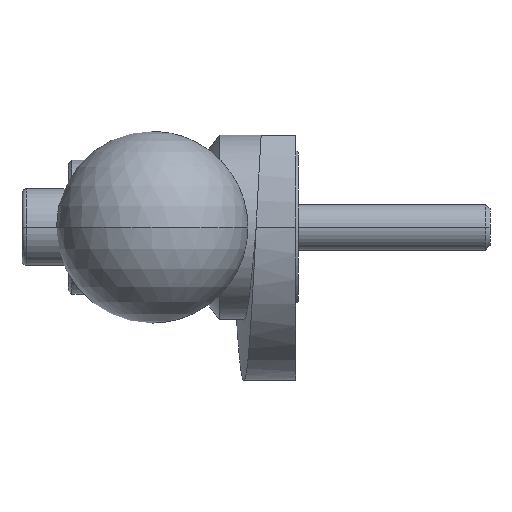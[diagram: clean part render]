
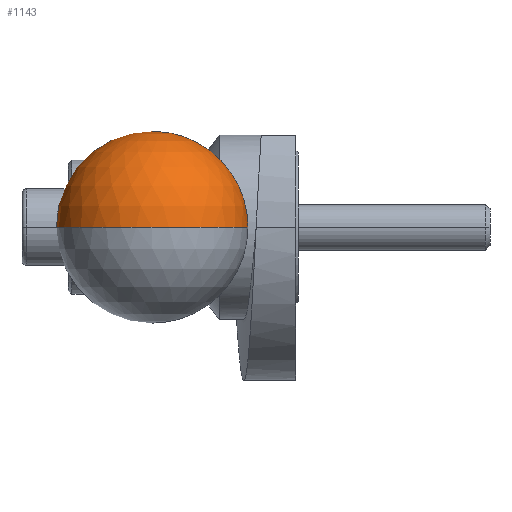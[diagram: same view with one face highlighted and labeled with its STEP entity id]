
A CAD part, left-side view. The second image highlights one B-rep face of the part: STEP entity #1143.
In plain terms, the highlighted spherical face has radius 12.5 mm.
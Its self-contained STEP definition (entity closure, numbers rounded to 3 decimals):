
#17 = DIRECTION ( 'NONE',  ( 0., -1., 0. ) ) ;
#42 = DIRECTION ( 'NONE',  ( 0., 0., -1. ) ) ;
#68 = VERTEX_POINT ( 'NONE', #1292 ) ;
#136 = DIRECTION ( 'NONE',  ( 1., 0., 0. ) ) ;
#463 = AXIS2_PLACEMENT_3D ( 'NONE', #1988, #1033, #136 ) ;
#498 = VERTEX_POINT ( 'NONE', #541 ) ;
#535 = DIRECTION ( 'NONE',  ( 0., 0., -1. ) ) ;
#541 = CARTESIAN_POINT ( 'NONE',  ( -77.5, 1.25, 0. ) ) ;
#600 = CARTESIAN_POINT ( 'NONE',  ( -100., 8.75, 0. ) ) ;
#678 = AXIS2_PLACEMENT_3D ( 'NONE', #1296, #42, #17 ) ;
#790 = FACE_OUTER_BOUND ( 'NONE', #1217, .T. ) ;
#853 = DIRECTION ( 'NONE',  ( 0., 1., 0. ) ) ;
#997 = DIRECTION ( 'NONE',  ( 1., 0., 0. ) ) ;
#1033 = DIRECTION ( 'NONE',  ( 0., 0., 1. ) ) ;
#1077 = CIRCLE ( 'NONE', #463, 12.5 ) ;
#1143 = ADVANCED_FACE ( 'NONE', ( #790 ), #1443, .T. ) ;
#1171 = EDGE_CURVE ( 'NONE', #68, #498, #1798, .T. ) ;
#1176 = AXIS2_PLACEMENT_3D ( 'NONE', #1938, #997, #1625 ) ;
#1217 = EDGE_LOOP ( 'NONE', ( #1545, #1873, #1254 ) ) ;
#1244 = EDGE_CURVE ( 'NONE', #1396, #68, #1430, .T. ) ;
#1254 = ORIENTED_EDGE ( 'NONE', *, *, #1171, .F. ) ;
#1292 = CARTESIAN_POINT ( 'NONE',  ( -77.5, 16.25, 0. ) ) ;
#1296 = CARTESIAN_POINT ( 'NONE',  ( -87.5, 8.75, 0. ) ) ;
#1300 = AXIS2_PLACEMENT_3D ( 'NONE', #1792, #535, #853 ) ;
#1396 = VERTEX_POINT ( 'NONE', #600 ) ;
#1430 = CIRCLE ( 'NONE', #1300, 12.5 ) ;
#1443 = SPHERICAL_SURFACE ( 'NONE', #678, 12.5 ) ;
#1450 = EDGE_CURVE ( 'NONE', #1396, #498, #1077, .T. ) ;
#1545 = ORIENTED_EDGE ( 'NONE', *, *, #1244, .F. ) ;
#1625 = DIRECTION ( 'NONE',  ( 0., 1., 0. ) ) ;
#1792 = CARTESIAN_POINT ( 'NONE',  ( -87.5, 8.75, 0. ) ) ;
#1798 = CIRCLE ( 'NONE', #1176, 7.5 ) ;
#1873 = ORIENTED_EDGE ( 'NONE', *, *, #1450, .T. ) ;
#1938 = CARTESIAN_POINT ( 'NONE',  ( -77.5, 8.75, 0. ) ) ;
#1988 = CARTESIAN_POINT ( 'NONE',  ( -87.5, 8.75, 0. ) ) ;
